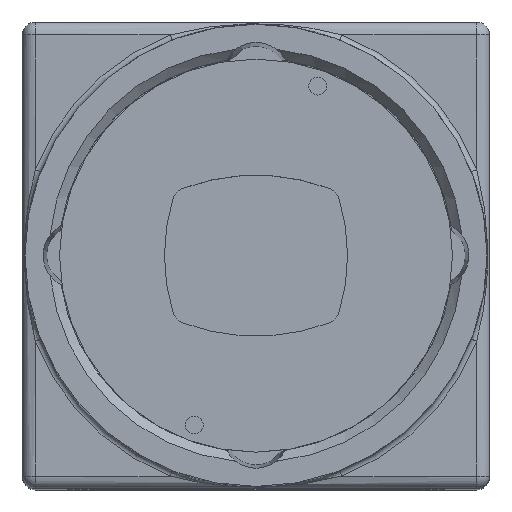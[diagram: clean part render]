
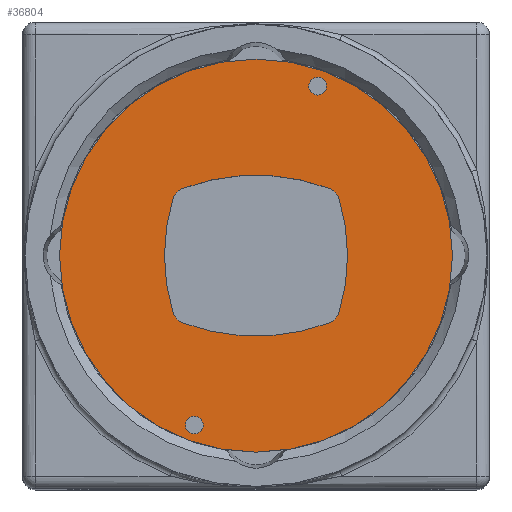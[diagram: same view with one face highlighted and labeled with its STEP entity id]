
A CAD part, top view. The second image highlights one B-rep face of the part: STEP entity #36804.
In plain terms, the highlighted planar face has unit normal (0, 0, 1).
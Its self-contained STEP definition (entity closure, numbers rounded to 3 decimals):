
#5544=PLANE('',#39163);
#11825=ORIENTED_EDGE('',*,*,#15963,.T.);
#11826=ORIENTED_EDGE('',*,*,#15964,.T.);
#11827=ORIENTED_EDGE('',*,*,#15949,.T.);
#11828=ORIENTED_EDGE('',*,*,#15965,.T.);
#11829=ORIENTED_EDGE('',*,*,#15958,.T.);
#11830=ORIENTED_EDGE('',*,*,#15966,.T.);
#11831=ORIENTED_EDGE('',*,*,#15954,.T.);
#11832=ORIENTED_EDGE('',*,*,#15967,.T.);
#11833=ORIENTED_EDGE('',*,*,#15950,.T.);
#11834=ORIENTED_EDGE('',*,*,#15968,.T.);
#11835=ORIENTED_EDGE('',*,*,#15962,.F.);
#15949=EDGE_CURVE('',#18506,#18509,#19710,.T.);
#15950=EDGE_CURVE('',#18510,#18511,#19711,.T.);
#15954=EDGE_CURVE('',#18514,#18515,#19713,.T.);
#15958=EDGE_CURVE('',#18518,#18519,#19715,.T.);
#15962=EDGE_CURVE('',#18522,#18522,#19717,.T.);
#15963=EDGE_CURVE('',#18523,#18523,#19718,.T.);
#15964=EDGE_CURVE('',#18524,#18524,#19719,.T.);
#15965=EDGE_CURVE('',#18509,#18518,#19720,.T.);
#15966=EDGE_CURVE('',#18519,#18514,#19721,.T.);
#15967=EDGE_CURVE('',#18515,#18510,#19722,.T.);
#15968=EDGE_CURVE('',#18511,#18506,#19723,.T.);
#18506=VERTEX_POINT('',#55544);
#18509=VERTEX_POINT('',#55549);
#18510=VERTEX_POINT('',#55553);
#18511=VERTEX_POINT('',#55554);
#18514=VERTEX_POINT('',#55562);
#18515=VERTEX_POINT('',#55563);
#18518=VERTEX_POINT('',#55571);
#18519=VERTEX_POINT('',#55572);
#18522=VERTEX_POINT('',#55580);
#18523=VERTEX_POINT('',#55583);
#18524=VERTEX_POINT('',#55585);
#19710=CIRCLE('',#39151,12.);
#19711=CIRCLE('',#39153,13.);
#19713=CIRCLE('',#39156,12.);
#19715=CIRCLE('',#39159,13.);
#19717=CIRCLE('',#39162,12.2);
#19718=CIRCLE('',#39164,0.55);
#19719=CIRCLE('',#39165,0.55);
#19720=CIRCLE('',#39166,1.);
#19721=CIRCLE('',#39167,1.);
#19722=CIRCLE('',#39168,1.);
#19723=CIRCLE('',#39169,1.);
#21456=EDGE_LOOP('',(#11825));
#21457=EDGE_LOOP('',(#11826));
#21458=EDGE_LOOP('',(#11827,#11828,#11829,#11830,#11831,#11832,#11833,#11834));
#21459=EDGE_LOOP('',(#11835));
#23529=FACE_BOUND('',#21456,.T.);
#23530=FACE_BOUND('',#21457,.T.);
#23531=FACE_BOUND('',#21458,.T.);
#23532=FACE_BOUND('',#21459,.T.);
#36804=ADVANCED_FACE('',(#23529,#23530,#23531,#23532),#5544,.F.);
#39151=AXIS2_PLACEMENT_3D('',#55550,#45699,#45700);
#39153=AXIS2_PLACEMENT_3D('',#55552,#45703,#45704);
#39156=AXIS2_PLACEMENT_3D('',#55561,#45711,#45712);
#39159=AXIS2_PLACEMENT_3D('',#55570,#45719,#45720);
#39162=AXIS2_PLACEMENT_3D('',#55579,#45727,#45728);
#39163=AXIS2_PLACEMENT_3D('',#55581,#45729,#45730);
#39164=AXIS2_PLACEMENT_3D('',#55582,#45731,#45732);
#39165=AXIS2_PLACEMENT_3D('',#55584,#45733,#45734);
#39166=AXIS2_PLACEMENT_3D('',#55586,#45735,#45736);
#39167=AXIS2_PLACEMENT_3D('',#55587,#45737,#45738);
#39168=AXIS2_PLACEMENT_3D('',#55588,#45739,#45740);
#39169=AXIS2_PLACEMENT_3D('',#55589,#45741,#45742);
#45699=DIRECTION('',(0.,0.,-1.));
#45700=DIRECTION('',(-1.,0.,0.));
#45703=DIRECTION('',(0.,0.,-1.));
#45704=DIRECTION('',(1.,0.,0.));
#45711=DIRECTION('',(0.,0.,-1.));
#45712=DIRECTION('',(1.,0.,0.));
#45719=DIRECTION('',(0.,0.,-1.));
#45720=DIRECTION('',(1.,0.,0.));
#45727=DIRECTION('',(0.,0.,-1.));
#45728=DIRECTION('',(-1.,0.,0.));
#45729=DIRECTION('',(0.,0.,-1.));
#45730=DIRECTION('',(-1.,0.,0.));
#45731=DIRECTION('',(0.,0.,-1.));
#45732=DIRECTION('',(0.,-1.,0.));
#45733=DIRECTION('',(0.,0.,-1.));
#45734=DIRECTION('',(0.,-1.,0.));
#45735=DIRECTION('',(0.,0.,-1.));
#45736=DIRECTION('',(-1.,0.,0.));
#45737=DIRECTION('',(0.,0.,-1.));
#45738=DIRECTION('',(-1.,0.,0.));
#45739=DIRECTION('',(0.,0.,-1.));
#45740=DIRECTION('',(-1.,0.,0.));
#45741=DIRECTION('',(0.,0.,-1.));
#45742=DIRECTION('',(-1.,0.,0.));
#55544=CARTESIAN_POINT('',(5.153,3.537,5.8));
#55549=CARTESIAN_POINT('',(5.153,-3.537,5.8));
#55550=CARTESIAN_POINT('',(-6.314,0.,5.8));
#55552=CARTESIAN_POINT('',(0.,-8.,5.8));
#55553=CARTESIAN_POINT('',(-4.548,4.179,5.8));
#55554=CARTESIAN_POINT('',(4.548,4.179,5.8));
#55561=CARTESIAN_POINT('',(6.314,0.,5.8));
#55562=CARTESIAN_POINT('',(-5.153,-3.537,5.8));
#55563=CARTESIAN_POINT('',(-5.153,3.537,5.8));
#55570=CARTESIAN_POINT('',(0.,8.,5.8));
#55571=CARTESIAN_POINT('',(4.548,-4.179,5.8));
#55572=CARTESIAN_POINT('',(-4.548,-4.179,5.8));
#55579=CARTESIAN_POINT('',(0.,0.,
5.8));
#55580=CARTESIAN_POINT('',(-12.2,0.,5.8));
#55581=CARTESIAN_POINT('',(1.907,5.239,5.8));
#55582=CARTESIAN_POINT('',(-3.831,-10.525,5.8));
#55583=CARTESIAN_POINT('',(-3.831,-11.075,5.8));
#55584=CARTESIAN_POINT('',(3.831,10.525,5.8));
#55585=CARTESIAN_POINT('',(3.831,9.975,5.8));
#55586=CARTESIAN_POINT('',(4.198,-3.242,5.8));
#55587=CARTESIAN_POINT('',(-4.198,-3.242,5.8));
#55588=CARTESIAN_POINT('',(-4.198,3.242,5.8));
#55589=CARTESIAN_POINT('',(4.198,3.242,5.8));
